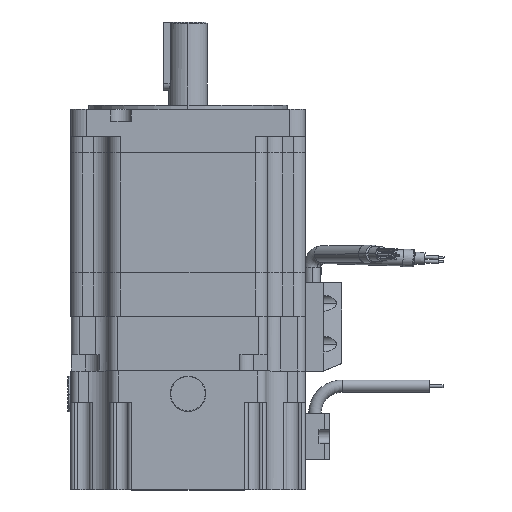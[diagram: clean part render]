
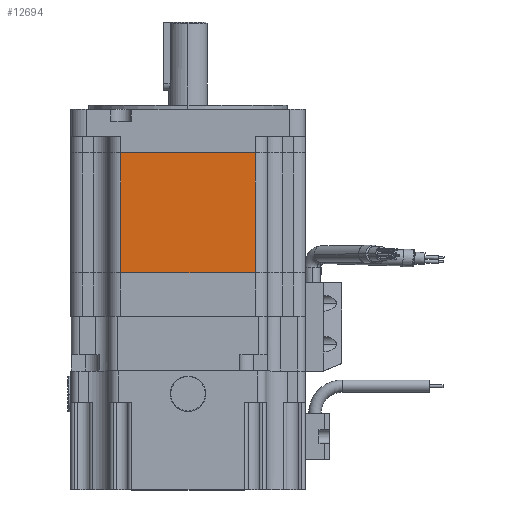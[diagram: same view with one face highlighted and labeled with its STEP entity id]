
A CAD part, top view. The second image highlights one B-rep face of the part: STEP entity #12694.
In plain terms, the highlighted planar face has unit normal (0, 0, 1).
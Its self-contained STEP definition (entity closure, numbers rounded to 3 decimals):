
#123 = DIRECTION ( 'NONE',  ( 0., 0., -1. ) ) ;
#1306 = FACE_OUTER_BOUND ( 'NONE', #12356, .T. ) ;
#2507 = VECTOR ( 'NONE', #4647, 1000. ) ;
#2585 = LINE ( 'NONE', #15017, #9868 ) ;
#3014 = CARTESIAN_POINT ( 'NONE',  ( 24.65, -49.992, 43. ) ) ;
#3084 = CARTESIAN_POINT ( 'NONE',  ( 37.3, 10., 43. ) ) ;
#3451 = CARTESIAN_POINT ( 'NONE',  ( 24.65, -66., 43. ) ) ;
#4270 = DIRECTION ( 'NONE',  ( 1., 0., 0. ) ) ;
#4647 = DIRECTION ( 'NONE',  ( 0., 1., 0. ) ) ;
#4786 = DIRECTION ( 'NONE',  ( -1., 0., 0. ) ) ;
#5694 = PLANE ( 'NONE',  #8187 ) ;
#5879 = CARTESIAN_POINT ( 'NONE',  ( 24.65, -6.008, 43. ) ) ;
#5940 = CARTESIAN_POINT ( 'NONE',  ( 37.3, -6.008, 43. ) ) ;
#6334 = LINE ( 'NONE', #3451, #2507 ) ;
#7007 = EDGE_CURVE ( 'NONE', #7039, #9052, #14743, .T. ) ;
#7021 = EDGE_CURVE ( 'NONE', #8768, #18136, #2585, .T. ) ;
#7039 = VERTEX_POINT ( 'NONE', #11974 ) ;
#7338 = DIRECTION ( 'NONE',  ( -1., 0., 0. ) ) ;
#8187 = AXIS2_PLACEMENT_3D ( 'NONE', #3084, #123, #4786 ) ;
#8429 = CARTESIAN_POINT ( 'NONE',  ( -24.65, -66., 43. ) ) ;
#8768 = VERTEX_POINT ( 'NONE', #3014 ) ;
#9052 = VERTEX_POINT ( 'NONE', #5879 ) ;
#9868 = VECTOR ( 'NONE', #7338, 1000. ) ;
#10516 = CARTESIAN_POINT ( 'NONE',  ( -24.65, -49.992, 43. ) ) ;
#10569 = ORIENTED_EDGE ( 'NONE', *, *, #7021, .F. ) ;
#11009 = ORIENTED_EDGE ( 'NONE', *, *, #7007, .F. ) ;
#11974 = CARTESIAN_POINT ( 'NONE',  ( -24.65, -6.008, 43. ) ) ;
#12356 = EDGE_LOOP ( 'NONE', ( #10569, #16413, #11009, #18984 ) ) ;
#12694 = ADVANCED_FACE ( 'NONE', ( #1306 ), #5694, .F. ) ;
#14743 = LINE ( 'NONE', #5940, #15858 ) ;
#15017 = CARTESIAN_POINT ( 'NONE',  ( 37.3, -49.992, 43. ) ) ;
#15073 = EDGE_CURVE ( 'NONE', #8768, #9052, #6334, .T. ) ;
#15858 = VECTOR ( 'NONE', #4270, 1000. ) ;
#15926 = LINE ( 'NONE', #8429, #17855 ) ;
#16413 = ORIENTED_EDGE ( 'NONE', *, *, #15073, .T. ) ;
#17244 = EDGE_CURVE ( 'NONE', #18136, #7039, #15926, .T. ) ;
#17855 = VECTOR ( 'NONE', #18987, 1000. ) ;
#18136 = VERTEX_POINT ( 'NONE', #10516 ) ;
#18984 = ORIENTED_EDGE ( 'NONE', *, *, #17244, .F. ) ;
#18987 = DIRECTION ( 'NONE',  ( 0., 1., 0. ) ) ;
